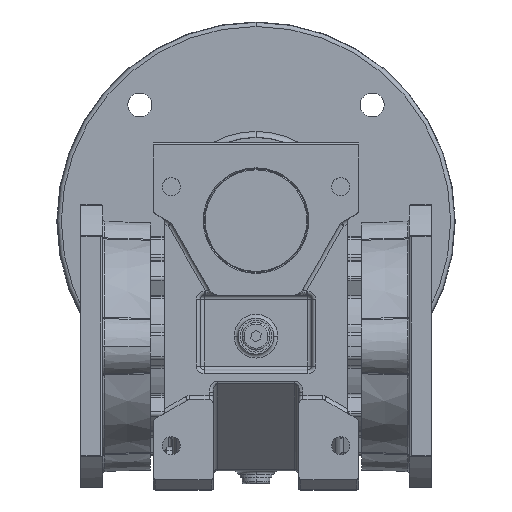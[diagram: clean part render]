
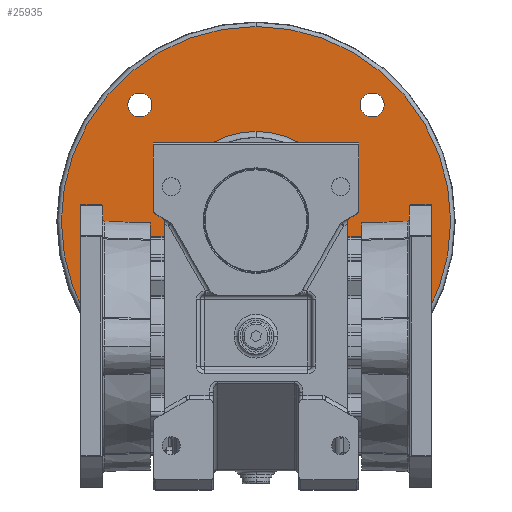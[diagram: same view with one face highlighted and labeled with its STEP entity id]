
A CAD part, top view. The second image highlights one B-rep face of the part: STEP entity #25935.
In plain terms, the highlighted planar face has unit normal (0, 0, 1).
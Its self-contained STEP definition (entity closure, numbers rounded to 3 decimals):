
#442 = CARTESIAN_POINT ( 'NONE',  ( 58.336, -58.336, 10. ) ) ;
#1306 = ORIENTED_EDGE ( 'NONE', *, *, #14865, .T. ) ;
#1472 = DIRECTION ( 'NONE',  ( 1., 0., 0. ) ) ;
#1533 = DIRECTION ( 'NONE',  ( 1., 0., 0. ) ) ;
#1871 = DIRECTION ( 'NONE',  ( 0., 0., -1. ) ) ;
#2266 = EDGE_CURVE ( 'NONE', #54860, #14957, #7558, .T. ) ;
#2396 = CARTESIAN_POINT ( 'NONE',  ( -64.336, 58.336, 10. ) ) ;
#4405 = AXIS2_PLACEMENT_3D ( 'NONE', #77127, #50865, #31915 ) ;
#4608 = EDGE_CURVE ( 'NONE', #21797, #27051, #26405, .T. ) ;
#4847 = CARTESIAN_POINT ( 'NONE',  ( 0., 0., 10. ) ) ;
#5747 = CARTESIAN_POINT ( 'NONE',  ( 0., 97.719, 10. ) ) ;
#7028 = EDGE_CURVE ( 'NONE', #62202, #61762, #25731, .T. ) ;
#7099 = CIRCLE ( 'NONE', #4405, 45.072 ) ;
#7189 = AXIS2_PLACEMENT_3D ( 'NONE', #58029, #58308, #51892 ) ;
#7558 = CIRCLE ( 'NONE', #73371, 6. ) ;
#8748 = EDGE_CURVE ( 'NONE', #14702, #53819, #34626, .T. ) ;
#9047 = DIRECTION ( 'NONE',  ( 0., 0., -1. ) ) ;
#9884 = CARTESIAN_POINT ( 'NONE',  ( 58.336, -58.336, 10. ) ) ;
#11439 = CIRCLE ( 'NONE', #28878, 45.072 ) ;
#11848 = EDGE_LOOP ( 'NONE', ( #17428, #20674 ) ) ;
#12058 = EDGE_CURVE ( 'NONE', #53819, #14702, #16984, .T. ) ;
#12320 = DIRECTION ( 'NONE',  ( -1., 0., 0. ) ) ;
#13648 = FACE_OUTER_BOUND ( 'NONE', #46709, .T. ) ;
#14702 = VERTEX_POINT ( 'NONE', #44194 ) ;
#14865 = EDGE_CURVE ( 'NONE', #70543, #37556, #7099, .T. ) ;
#14957 = VERTEX_POINT ( 'NONE', #53076 ) ;
#15690 = ORIENTED_EDGE ( 'NONE', *, *, #76132, .T. ) ;
#15942 = CARTESIAN_POINT ( 'NONE',  ( -45.072, 0., 10. ) ) ;
#16984 = CIRCLE ( 'NONE', #63205, 6. ) ;
#17428 = ORIENTED_EDGE ( 'NONE', *, *, #69251, .T. ) ;
#18426 = CARTESIAN_POINT ( 'NONE',  ( -58.336, -58.336, 10. ) ) ;
#18618 = DIRECTION ( 'NONE',  ( 0., 0., -1. ) ) ;
#19076 = VERTEX_POINT ( 'NONE', #75487 ) ;
#19135 = CARTESIAN_POINT ( 'NONE',  ( -97.719, 0., 10. ) ) ;
#19878 = DIRECTION ( 'NONE',  ( -1., 0., 0. ) ) ;
#20674 = ORIENTED_EDGE ( 'NONE', *, *, #7028, .T. ) ;
#21797 = VERTEX_POINT ( 'NONE', #2396 ) ;
#22032 = AXIS2_PLACEMENT_3D ( 'NONE', #9884, #9047, #41539 ) ;
#22905 = CARTESIAN_POINT ( 'NONE',  ( -58.336, 58.336, 10. ) ) ;
#23966 = DIRECTION ( 'NONE',  ( 0., 0., -1. ) ) ;
#24254 = VERTEX_POINT ( 'NONE', #19135 ) ;
#25347 = CARTESIAN_POINT ( 'NONE',  ( 64.336, 58.336, 10. ) ) ;
#25731 = CIRCLE ( 'NONE', #47301, 6. ) ;
#25935 = ADVANCED_FACE ( 'NONE', ( #44895, #68804, #70305, #41127, #41659, #13648 ), #37656, .T. ) ;
#26405 = CIRCLE ( 'NONE', #65415, 6. ) ;
#26996 = CARTESIAN_POINT ( 'NONE',  ( 58.336, 58.336, 10. ) ) ;
#27051 = VERTEX_POINT ( 'NONE', #62226 ) ;
#27586 = EDGE_CURVE ( 'NONE', #19076, #24254, #68298, .T. ) ;
#27679 = AXIS2_PLACEMENT_3D ( 'NONE', #5747, #33208, #1533 ) ;
#28878 = AXIS2_PLACEMENT_3D ( 'NONE', #52518, #1871, #19878 ) ;
#31915 = DIRECTION ( 'NONE',  ( -1., 0., 0. ) ) ;
#32355 = CARTESIAN_POINT ( 'NONE',  ( -58.336, 58.336, 10. ) ) ;
#33208 = DIRECTION ( 'NONE',  ( 0., 0., 1. ) ) ;
#33836 = ORIENTED_EDGE ( 'NONE', *, *, #8748, .T. ) ;
#34626 = CIRCLE ( 'NONE', #7189, 6. ) ;
#35201 = EDGE_CURVE ( 'NONE', #37556, #70543, #11439, .T. ) ;
#36628 = DIRECTION ( 'NONE',  ( 1., 0., 0. ) ) ;
#37556 = VERTEX_POINT ( 'NONE', #15942 ) ;
#37656 = PLANE ( 'NONE',  #27679 ) ;
#39610 = EDGE_LOOP ( 'NONE', ( #77402, #15690 ) ) ;
#41127 = FACE_BOUND ( 'NONE', #11848, .T. ) ;
#41539 = DIRECTION ( 'NONE',  ( 1., 0., 0. ) ) ;
#41659 = FACE_BOUND ( 'NONE', #57301, .T. ) ;
#42325 = EDGE_LOOP ( 'NONE', ( #77806, #82861 ) ) ;
#44194 = CARTESIAN_POINT ( 'NONE',  ( -64.336, -58.336, 10. ) ) ;
#44895 = FACE_BOUND ( 'NONE', #49560, .T. ) ;
#45912 = EDGE_CURVE ( 'NONE', #24254, #19076, #78987, .T. ) ;
#45984 = DIRECTION ( 'NONE',  ( 0., 0., -1. ) ) ;
#46709 = EDGE_LOOP ( 'NONE', ( #82432, #79427 ) ) ;
#47301 = AXIS2_PLACEMENT_3D ( 'NONE', #82224, #68506, #62910 ) ;
#47444 = CARTESIAN_POINT ( 'NONE',  ( 52.336, -58.336, 10. ) ) ;
#48543 = DIRECTION ( 'NONE',  ( 1., 0., 0. ) ) ;
#49560 = EDGE_LOOP ( 'NONE', ( #33836, #77184 ) ) ;
#49596 = DIRECTION ( 'NONE',  ( -1., 0., 0. ) ) ;
#50865 = DIRECTION ( 'NONE',  ( 0., 0., -1. ) ) ;
#51745 = CIRCLE ( 'NONE', #57937, 6. ) ;
#51892 = DIRECTION ( 'NONE',  ( 1., 0., 0. ) ) ;
#52253 = CARTESIAN_POINT ( 'NONE',  ( 45.072, 0., 10. ) ) ;
#52518 = CARTESIAN_POINT ( 'NONE',  ( 0., 0., 10. ) ) ;
#53076 = CARTESIAN_POINT ( 'NONE',  ( 64.336, -58.336, 10. ) ) ;
#53819 = VERTEX_POINT ( 'NONE', #75121 ) ;
#54860 = VERTEX_POINT ( 'NONE', #47444 ) ;
#55830 = DIRECTION ( 'NONE',  ( 1., 0., 0. ) ) ;
#57301 = EDGE_LOOP ( 'NONE', ( #71391, #1306 ) ) ;
#57446 = DIRECTION ( 'NONE',  ( 1., 0., 0. ) ) ;
#57937 = AXIS2_PLACEMENT_3D ( 'NONE', #22905, #23966, #48543 ) ;
#58029 = CARTESIAN_POINT ( 'NONE',  ( -58.336, -58.336, 10. ) ) ;
#58151 = AXIS2_PLACEMENT_3D ( 'NONE', #63747, #82770, #12320 ) ;
#58308 = DIRECTION ( 'NONE',  ( 0., 0., -1. ) ) ;
#58642 = CARTESIAN_POINT ( 'NONE',  ( 52.336, 58.336, 10. ) ) ;
#59792 = AXIS2_PLACEMENT_3D ( 'NONE', #26996, #45984, #1472 ) ;
#61762 = VERTEX_POINT ( 'NONE', #58642 ) ;
#62106 = CIRCLE ( 'NONE', #22032, 6. ) ;
#62202 = VERTEX_POINT ( 'NONE', #25347 ) ;
#62226 = CARTESIAN_POINT ( 'NONE',  ( -52.336, 58.336, 10. ) ) ;
#62910 = DIRECTION ( 'NONE',  ( 1., 0., 0. ) ) ;
#63081 = DIRECTION ( 'NONE',  ( 0., 0., -1. ) ) ;
#63205 = AXIS2_PLACEMENT_3D ( 'NONE', #18426, #63081, #55830 ) ;
#63747 = CARTESIAN_POINT ( 'NONE',  ( 0., 0., 10. ) ) ;
#65415 = AXIS2_PLACEMENT_3D ( 'NONE', #32355, #82922, #57446 ) ;
#68298 = CIRCLE ( 'NONE', #80288, 97.719 ) ;
#68506 = DIRECTION ( 'NONE',  ( 0., 0., -1. ) ) ;
#68804 = FACE_BOUND ( 'NONE', #39610, .T. ) ;
#69251 = EDGE_CURVE ( 'NONE', #61762, #62202, #77961, .T. ) ;
#70305 = FACE_BOUND ( 'NONE', #42325, .T. ) ;
#70543 = VERTEX_POINT ( 'NONE', #52253 ) ;
#71391 = ORIENTED_EDGE ( 'NONE', *, *, #35201, .T. ) ;
#73371 = AXIS2_PLACEMENT_3D ( 'NONE', #442, #80998, #36628 ) ;
#75121 = CARTESIAN_POINT ( 'NONE',  ( -52.336, -58.336, 10. ) ) ;
#75487 = CARTESIAN_POINT ( 'NONE',  ( 97.719, 0., 10. ) ) ;
#76132 = EDGE_CURVE ( 'NONE', #14957, #54860, #62106, .T. ) ;
#77127 = CARTESIAN_POINT ( 'NONE',  ( 0., 0., 10. ) ) ;
#77184 = ORIENTED_EDGE ( 'NONE', *, *, #12058, .T. ) ;
#77402 = ORIENTED_EDGE ( 'NONE', *, *, #2266, .T. ) ;
#77806 = ORIENTED_EDGE ( 'NONE', *, *, #4608, .T. ) ;
#77961 = CIRCLE ( 'NONE', #59792, 6. ) ;
#78026 = EDGE_CURVE ( 'NONE', #27051, #21797, #51745, .T. ) ;
#78987 = CIRCLE ( 'NONE', #58151, 97.719 ) ;
#79427 = ORIENTED_EDGE ( 'NONE', *, *, #27586, .F. ) ;
#80288 = AXIS2_PLACEMENT_3D ( 'NONE', #4847, #18618, #49596 ) ;
#80998 = DIRECTION ( 'NONE',  ( 0., 0., -1. ) ) ;
#82224 = CARTESIAN_POINT ( 'NONE',  ( 58.336, 58.336, 10. ) ) ;
#82432 = ORIENTED_EDGE ( 'NONE', *, *, #45912, .F. ) ;
#82770 = DIRECTION ( 'NONE',  ( 0., 0., -1. ) ) ;
#82861 = ORIENTED_EDGE ( 'NONE', *, *, #78026, .T. ) ;
#82922 = DIRECTION ( 'NONE',  ( 0., 0., -1. ) ) ;
